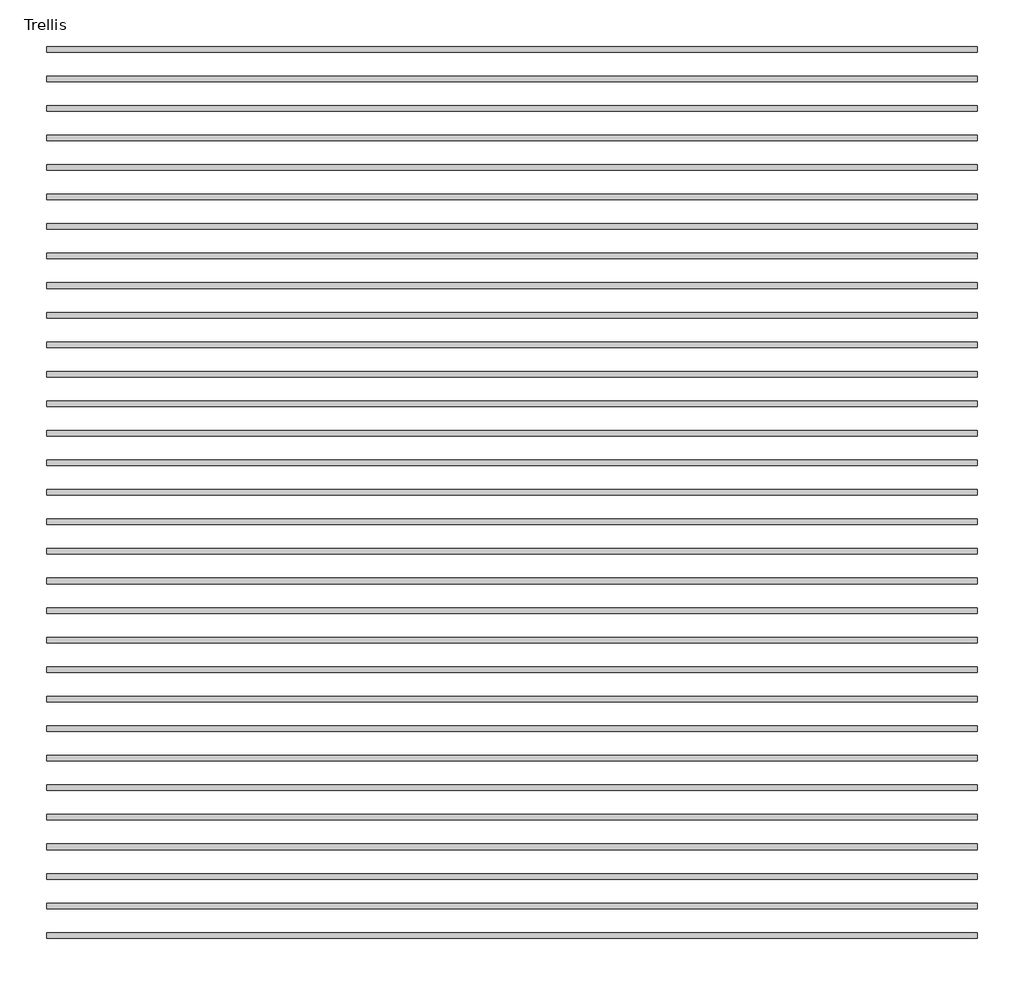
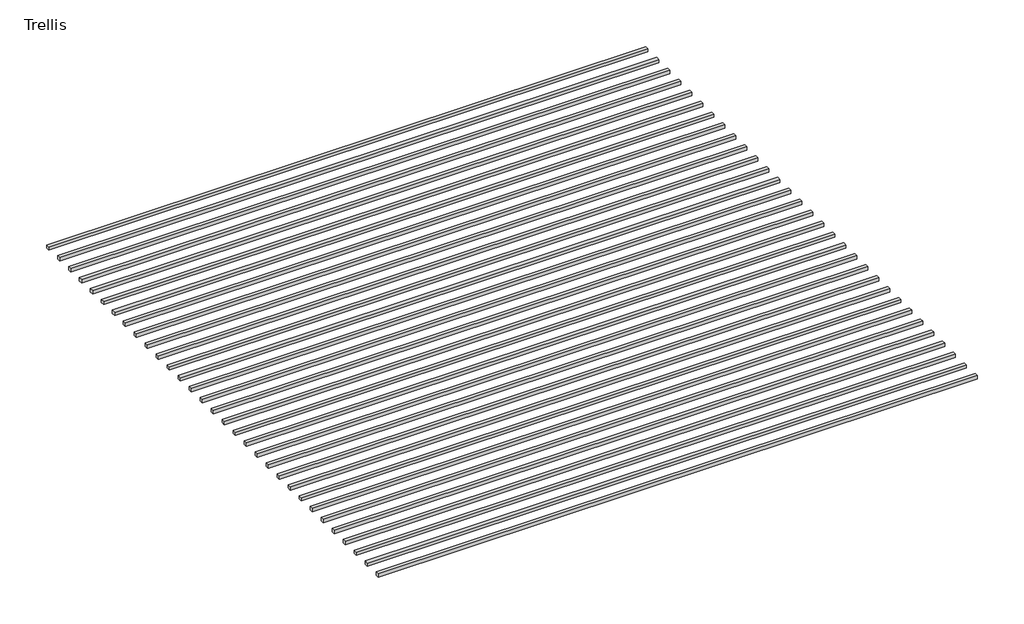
# One storey: 31 beams.
"""IFC4 building model written with IfcOpenShell, lengths in millimetres."""

from ifc_helpers import new_model, si_unit, origin, place, context, project, spatial, transform, mapped, element, save
from components import dimension_lumber_1_2x_x1_74f95edf

model = new_model("IFC4")

# Units and contexts
model_context = context("Model", 3, world=origin())
ifc_project = project(units=[si_unit("LENGTHUNIT", "METRE", prefix="MILLI")], contexts=[model_context])

# Site, building, storey
site = spatial("IfcSite", under=ifc_project)
building = spatial("IfcBuilding", under=site)
storey = spatial("IfcBuildingStorey", under=building, Name="Trellis", Elevation=2927.35)

# Beams
placement = place(None, origin())
dimension_lumber_1_2x_x1_shape = dimension_lumber_1_2x_x1_74f95edf(model_context)
element("IfcBeam", 1, ObjectType="Dimension Lumber (1) 2x : x1", at=placement, inside=storey, context=model_context, shape_type="MappedRepresentation", body=[
    mapped(dimension_lumber_1_2x_x1_shape, transform((14157.0468679, 13433.9365582, 2946.4), x_axis=(1.0, 0.0, 0.0), y_axis=(0.0, 1.0, 0.0), z_axis=(0.0, 0.0, 1.0))),
])
element("IfcBeam", 2, ObjectType="Dimension Lumber (1) 2x : x1", at=placement, inside=storey, context=model_context, shape_type="MappedRepresentation", body=[
    mapped(dimension_lumber_1_2x_x1_shape, transform((14157.0468679, 13230.7365582, 2946.4), x_axis=(1.0, 0.0, 0.0), y_axis=(0.0, 1.0, 0.0), z_axis=(0.0, 0.0, 1.0))),
])
element("IfcBeam", 3, ObjectType="Dimension Lumber (1) 2x : x1", at=placement, inside=storey, context=model_context, shape_type="MappedRepresentation", body=[
    mapped(dimension_lumber_1_2x_x1_shape, transform((14157.0468679, 13027.5365582, 2946.4), x_axis=(1.0, 0.0, 0.0), y_axis=(0.0, 1.0, 0.0), z_axis=(0.0, 0.0, 1.0))),
])
element("IfcBeam", 4, ObjectType="Dimension Lumber (1) 2x : x1", at=placement, inside=storey, context=model_context, shape_type="MappedRepresentation", body=[
    mapped(dimension_lumber_1_2x_x1_shape, transform((14157.0468679, 12824.3365582, 2946.4), x_axis=(1.0, 0.0, 0.0), y_axis=(0.0, 1.0, 0.0), z_axis=(0.0, 0.0, 1.0))),
])
element("IfcBeam", 5, ObjectType="Dimension Lumber (1) 2x : x1", at=placement, inside=storey, context=model_context, shape_type="MappedRepresentation", body=[
    mapped(dimension_lumber_1_2x_x1_shape, transform((14157.0468679, 12621.1365582, 2946.4), x_axis=(1.0, 0.0, 0.0), y_axis=(0.0, 1.0, 0.0), z_axis=(0.0, 0.0, 1.0))),
])
element("IfcBeam", 6, ObjectType="Dimension Lumber (1) 2x : x1", at=placement, inside=storey, context=model_context, shape_type="MappedRepresentation", body=[
    mapped(dimension_lumber_1_2x_x1_shape, transform((14157.0468679, 12417.9365582, 2946.4), x_axis=(1.0, 0.0, 0.0), y_axis=(0.0, 1.0, 0.0), z_axis=(0.0, 0.0, 1.0))),
])
element("IfcBeam", 7, ObjectType="Dimension Lumber (1) 2x : x1", at=placement, inside=storey, context=model_context, shape_type="MappedRepresentation", body=[
    mapped(dimension_lumber_1_2x_x1_shape, transform((14157.0468679, 12214.7365582, 2946.4), x_axis=(1.0, 0.0, 0.0), y_axis=(0.0, 1.0, 0.0), z_axis=(0.0, 0.0, 1.0))),
])
element("IfcBeam", 8, ObjectType="Dimension Lumber (1) 2x : x1", at=placement, inside=storey, context=model_context, shape_type="MappedRepresentation", body=[
    mapped(dimension_lumber_1_2x_x1_shape, transform((14157.0468679, 12011.5365582, 2946.4), x_axis=(1.0, 0.0, 0.0), y_axis=(0.0, 1.0, 0.0), z_axis=(0.0, 0.0, 1.0))),
])
element("IfcBeam", 9, ObjectType="Dimension Lumber (1) 2x : x1", at=placement, inside=storey, context=model_context, shape_type="MappedRepresentation", body=[
    mapped(dimension_lumber_1_2x_x1_shape, transform((14157.0468679, 11808.3365582, 2946.4), x_axis=(1.0, 0.0, 0.0), y_axis=(0.0, 1.0, 0.0), z_axis=(0.0, 0.0, 1.0))),
])
element("IfcBeam", 10, ObjectType="Dimension Lumber (1) 2x : x1", at=placement, inside=storey, context=model_context, shape_type="MappedRepresentation", body=[
    mapped(dimension_lumber_1_2x_x1_shape, transform((14157.0468679, 11605.1365582, 2946.4), x_axis=(1.0, 0.0, 0.0), y_axis=(0.0, 1.0, 0.0), z_axis=(0.0, 0.0, 1.0))),
])
element("IfcBeam", 11, ObjectType="Dimension Lumber (1) 2x : x1", at=placement, inside=storey, context=model_context, shape_type="MappedRepresentation", body=[
    mapped(dimension_lumber_1_2x_x1_shape, transform((14157.0468679, 11401.9365582, 2946.4), x_axis=(1.0, 0.0, 0.0), y_axis=(0.0, 1.0, 0.0), z_axis=(0.0, 0.0, 1.0))),
])
element("IfcBeam", 12, ObjectType="Dimension Lumber (1) 2x : x1", at=placement, inside=storey, context=model_context, shape_type="MappedRepresentation", body=[
    mapped(dimension_lumber_1_2x_x1_shape, transform((14157.0468679, 11198.7365582, 2946.4), x_axis=(1.0, 0.0, 0.0), y_axis=(0.0, 1.0, 0.0), z_axis=(0.0, 0.0, 1.0))),
])
element("IfcBeam", 13, ObjectType="Dimension Lumber (1) 2x : x1", at=placement, inside=storey, context=model_context, shape_type="MappedRepresentation", body=[
    mapped(dimension_lumber_1_2x_x1_shape, transform((14157.0468679, 10995.5365582, 2946.4), x_axis=(1.0, 0.0, 0.0), y_axis=(0.0, 1.0, 0.0), z_axis=(0.0, 0.0, 1.0))),
])
element("IfcBeam", 14, ObjectType="Dimension Lumber (1) 2x : x1", at=placement, inside=storey, context=model_context, shape_type="MappedRepresentation", body=[
    mapped(dimension_lumber_1_2x_x1_shape, transform((14157.0468679, 10792.3365582, 2946.4), x_axis=(1.0, 0.0, 0.0), y_axis=(0.0, 1.0, 0.0), z_axis=(0.0, 0.0, 1.0))),
])
element("IfcBeam", 15, ObjectType="Dimension Lumber (1) 2x : x1", at=placement, inside=storey, context=model_context, shape_type="MappedRepresentation", body=[
    mapped(dimension_lumber_1_2x_x1_shape, transform((14157.0468679, 10589.1365582, 2946.4), x_axis=(1.0, 0.0, 0.0), y_axis=(0.0, 1.0, 0.0), z_axis=(0.0, 0.0, 1.0))),
])
element("IfcBeam", 16, ObjectType="Dimension Lumber (1) 2x : x1", at=placement, inside=storey, context=model_context, shape_type="MappedRepresentation", body=[
    mapped(dimension_lumber_1_2x_x1_shape, transform((14157.0468679, 10385.9365582, 2946.4), x_axis=(1.0, 0.0, 0.0), y_axis=(0.0, 1.0, 0.0), z_axis=(0.0, 0.0, 1.0))),
])
element("IfcBeam", 17, ObjectType="Dimension Lumber (1) 2x : x1", at=placement, inside=storey, context=model_context, shape_type="MappedRepresentation", body=[
    mapped(dimension_lumber_1_2x_x1_shape, transform((14157.0468679, 10182.7365582, 2946.4), x_axis=(1.0, 0.0, 0.0), y_axis=(0.0, 1.0, 0.0), z_axis=(0.0, 0.0, 1.0))),
])
element("IfcBeam", 18, ObjectType="Dimension Lumber (1) 2x : x1", at=placement, inside=storey, context=model_context, shape_type="MappedRepresentation", body=[
    mapped(dimension_lumber_1_2x_x1_shape, transform((14157.0468679, 9979.5365582, 2946.4), x_axis=(1.0, 0.0, 0.0), y_axis=(0.0, 1.0, 0.0), z_axis=(0.0, 0.0, 1.0))),
])
element("IfcBeam", 19, ObjectType="Dimension Lumber (1) 2x : x1", at=placement, inside=storey, context=model_context, shape_type="MappedRepresentation", body=[
    mapped(dimension_lumber_1_2x_x1_shape, transform((14157.0468679, 9776.3365582, 2946.4), x_axis=(1.0, 0.0, 0.0), y_axis=(0.0, 1.0, 0.0), z_axis=(0.0, 0.0, 1.0))),
])
element("IfcBeam", 20, ObjectType="Dimension Lumber (1) 2x : x1", at=placement, inside=storey, context=model_context, shape_type="MappedRepresentation", body=[
    mapped(dimension_lumber_1_2x_x1_shape, transform((14157.0468679, 9573.1365582, 2946.4), x_axis=(1.0, 0.0, 0.0), y_axis=(0.0, 1.0, 0.0), z_axis=(0.0, 0.0, 1.0))),
])
element("IfcBeam", 21, ObjectType="Dimension Lumber (1) 2x : x1", at=placement, inside=storey, context=model_context, shape_type="MappedRepresentation", body=[
    mapped(dimension_lumber_1_2x_x1_shape, transform((14157.0468679, 9369.9365582, 2946.4), x_axis=(1.0, 0.0, 0.0), y_axis=(0.0, 1.0, 0.0), z_axis=(0.0, 0.0, 1.0))),
])
element("IfcBeam", 22, ObjectType="Dimension Lumber (1) 2x : x1", at=placement, inside=storey, context=model_context, shape_type="MappedRepresentation", body=[
    mapped(dimension_lumber_1_2x_x1_shape, transform((14157.0468679, 9166.7365582, 2946.4), x_axis=(1.0, 0.0, 0.0), y_axis=(0.0, 1.0, 0.0), z_axis=(0.0, 0.0, 1.0))),
])
element("IfcBeam", 23, ObjectType="Dimension Lumber (1) 2x : x1", at=placement, inside=storey, context=model_context, shape_type="MappedRepresentation", body=[
    mapped(dimension_lumber_1_2x_x1_shape, transform((14157.0468679, 8963.5365582, 2946.4), x_axis=(1.0, 0.0, 0.0), y_axis=(0.0, 1.0, 0.0), z_axis=(0.0, 0.0, 1.0))),
])
element("IfcBeam", 24, ObjectType="Dimension Lumber (1) 2x : x1", at=placement, inside=storey, context=model_context, shape_type="MappedRepresentation", body=[
    mapped(dimension_lumber_1_2x_x1_shape, transform((14157.0468679, 8760.3365582, 2946.4), x_axis=(1.0, 0.0, 0.0), y_axis=(0.0, 1.0, 0.0), z_axis=(0.0, 0.0, 1.0))),
])
element("IfcBeam", 25, ObjectType="Dimension Lumber (1) 2x : x1", at=placement, inside=storey, context=model_context, shape_type="MappedRepresentation", body=[
    mapped(dimension_lumber_1_2x_x1_shape, transform((14157.0468679, 8557.1365582, 2946.4), x_axis=(1.0, 0.0, 0.0), y_axis=(0.0, 1.0, 0.0), z_axis=(0.0, 0.0, 1.0))),
])
element("IfcBeam", 26, ObjectType="Dimension Lumber (1) 2x : x1", at=placement, inside=storey, context=model_context, shape_type="MappedRepresentation", body=[
    mapped(dimension_lumber_1_2x_x1_shape, transform((14157.0468679, 8353.9365582, 2946.4), x_axis=(1.0, 0.0, 0.0), y_axis=(0.0, 1.0, 0.0), z_axis=(0.0, 0.0, 1.0))),
])
element("IfcBeam", 27, ObjectType="Dimension Lumber (1) 2x : x1", at=placement, inside=storey, context=model_context, shape_type="MappedRepresentation", body=[
    mapped(dimension_lumber_1_2x_x1_shape, transform((14157.0468679, 8150.7365582, 2946.4), x_axis=(1.0, 0.0, 0.0), y_axis=(0.0, 1.0, 0.0), z_axis=(0.0, 0.0, 1.0))),
])
element("IfcBeam", 28, ObjectType="Dimension Lumber (1) 2x : x1", at=placement, inside=storey, context=model_context, shape_type="MappedRepresentation", body=[
    mapped(dimension_lumber_1_2x_x1_shape, transform((14157.0468679, 7947.5365582, 2946.4), x_axis=(1.0, 0.0, 0.0), y_axis=(0.0, 1.0, 0.0), z_axis=(0.0, 0.0, 1.0))),
])
element("IfcBeam", 29, ObjectType="Dimension Lumber (1) 2x : x1", at=placement, inside=storey, context=model_context, shape_type="MappedRepresentation", body=[
    mapped(dimension_lumber_1_2x_x1_shape, transform((14157.0468679, 7744.3365582, 2946.4), x_axis=(1.0, 0.0, 0.0), y_axis=(0.0, 1.0, 0.0), z_axis=(0.0, 0.0, 1.0))),
])
element("IfcBeam", 30, ObjectType="Dimension Lumber (1) 2x : x1", at=placement, inside=storey, context=model_context, shape_type="MappedRepresentation", body=[
    mapped(dimension_lumber_1_2x_x1_shape, transform((14157.0468679, 7541.1365582, 2946.4), x_axis=(1.0, 0.0, 0.0), y_axis=(0.0, 1.0, 0.0), z_axis=(0.0, 0.0, 1.0))),
])
element("IfcBeam", 31, ObjectType="Dimension Lumber (1) 2x : x1", at=placement, inside=storey, context=model_context, shape_type="MappedRepresentation", body=[
    mapped(dimension_lumber_1_2x_x1_shape, transform((14157.0468679, 7337.9365582, 2946.4), x_axis=(1.0, 0.0, 0.0), y_axis=(0.0, 1.0, 0.0), z_axis=(0.0, 0.0, 1.0))),
])

save(model, "model.ifc")
